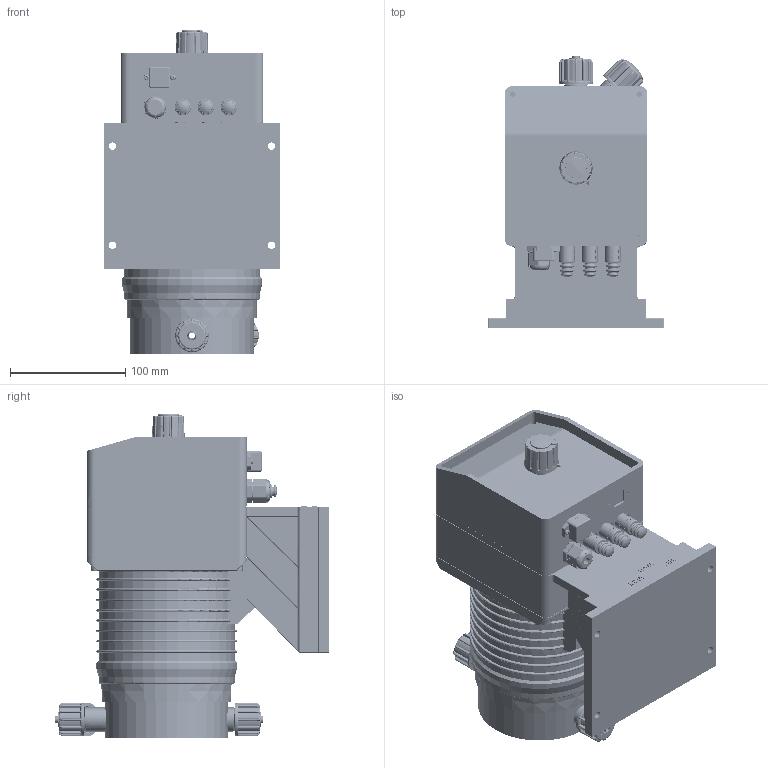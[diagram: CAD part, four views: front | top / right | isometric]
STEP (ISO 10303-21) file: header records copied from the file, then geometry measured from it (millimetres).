
FILE_DESCRIPTION (( 'STEP AP214' ), '1' );
FILE_NAME ('EMEC A Series Pump.STEP', '2017-06-08T21:12:30', ( '' ), ( '' ), 'SwSTEP 2.0', 'SolidWorks 2014', '' );
FILE_SCHEMA (( 'AUTOMOTIVE_DESIGN' ));
Length unit declared in the file: millimetre
Products named in the file (37): Priming_Bleed Valve - O-Ring - Small; BNC - Cap - Large; Priming_Bleed Valve - O-Ring - Large; BNC - Body - Large; Priming_Bleed Valve; Alarm Socket - Screw; Bolt Cap - Pump Head; Alarm Socket - Pins; Washer - SS - M5 - 14.7mm; Alarm Socket - Grey; Bolt - SS - Allen Socket Head - M5x0.75 - 55mm; Alarm Socket - Gasket; Alarm Socket - Cap; Bolt - SS - Allen Socket Head - M6x0.75 - 24mm; EMEC A series pump - Sroke Adjusment Shaft; Diaphgram; EMEC A series pump - Sroke Adjusment Knob Position Indicator; Diaphgram Plate; EMEC A series pump - Sroke Adjusment Knob; EMEC A series pump - Head O-Ring; Hose Fitting Kit - 3_4in - Sub Assembly; EMEC A series pump - Head; Hose Fitting Kit - 3_4in - O-Ring; EMEC A series pump - Face (Bare); EMEC A series pump - Head Spacer; Hose Fitting Kit - 3_4in - Cap; EMEC A series pump - Foot; EMEC A series pump - Rear Body (Solenoid Housing); Hose Fitting Kit - 3_4in - 6x8 Hose Ring; EMEC A Series Pump - AMS Face Complete; EMEC A Series Pump; Gland - Bush; Hose Fitting Kit - 3_4in - 6x8 Hose Barb; Gland; BNC - Centre Socket - Large; Priming_Bleed Valve Sub Assembly; BNC - Centre Bush - Large
Assembly tree (64 placements, depth 3):
  EMEC A Series Pump
    EMEC A series pump - Foot
    EMEC A Series Pump - AMS Face Complete
      EMEC A series pump - Face (Bare)
      EMEC A series pump - Sroke Adjusment Knob
      EMEC A series pump - Sroke Adjusment Knob Position Indicator
      EMEC A series pump - Sroke Adjusment Shaft
      Alarm Socket - Cap
      Alarm Socket - Gasket
      Alarm Socket - Grey
      Alarm Socket - Pins
      Alarm Socket - Screw  x2
      BNC - Body - Large  x3
      BNC - Cap - Large  x3
      BNC - Centre Bush - Large  x3
      BNC - Centre Socket - Large  x3
      Gland
      Gland - Bush
    EMEC A series pump - Rear Body (Solenoid Housing)
    EMEC A series pump - Head Spacer
    EMEC A series pump - Head
    EMEC A series pump - Head O-Ring
    Diaphgram Plate
    Diaphgram
    Bolt - SS - Allen Socket Head - M6x0.75 - 24mm  x4
    Bolt - SS - Allen Socket Head - M5x0.75 - 55mm  x6
    Washer - SS - M5 - 14.7mm  x6
    Bolt Cap - Pump Head  x6
    Priming_Bleed Valve Sub Assembly
      Priming_Bleed Valve
      Priming_Bleed Valve - O-Ring - Large
      Priming_Bleed Valve - O-Ring - Small
    Hose Fitting Kit - 3_4in - Sub Assembly  x2
      Hose Fitting Kit - 3_4in - 6x8 Hose Barb
      Hose Fitting Kit - 3_4in - 6x8 Hose Ring
      Hose Fitting Kit - 3_4in - Cap
      Hose Fitting Kit - 3_4in - O-Ring
Bounding box: 152.5 x 237 x 281.15 mm (x, y, z)
Volume: 1723336.1 mm3; surface area: 644698.6 mm2
Topology: 76 solids, 82 shells, 6875 faces, 17036 edges, 10558 vertices
Faces by surface type: plane 2554, cylinder 2528, torus 1067, bspline 405, cone 284, sphere 37
Entity records: 190482 total; most frequent: CARTESIAN_POINT 63355, ORIENTED_EDGE 26836, DIRECTION 25804, EDGE_CURVE 13418, AXIS2_PLACEMENT_3D 9935, VERTEX_POINT 8378, LINE 5934, VECTOR 5934
